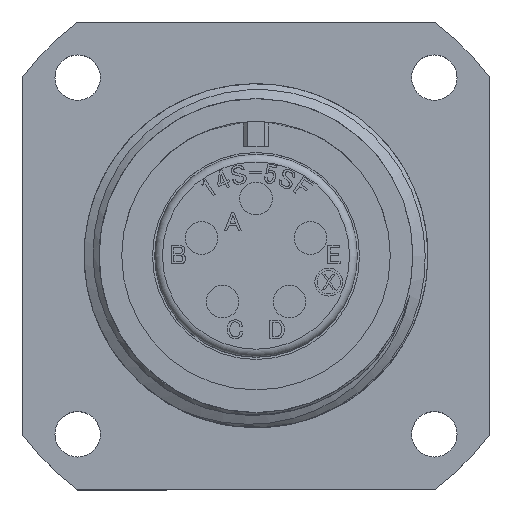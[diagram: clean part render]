
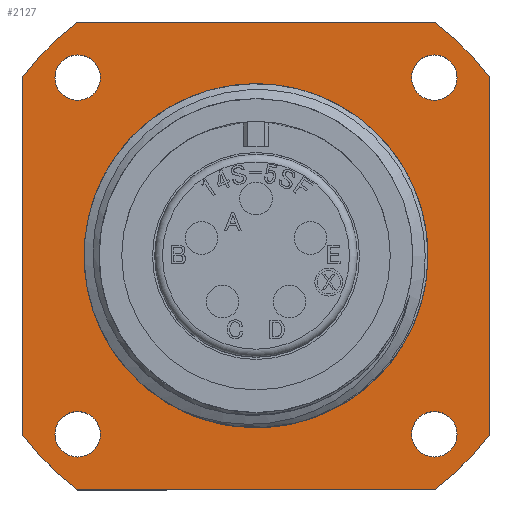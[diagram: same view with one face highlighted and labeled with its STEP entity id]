
A CAD part, top view. The second image highlights one B-rep face of the part: STEP entity #2127.
In plain terms, the highlighted planar face has unit normal (0, 0, 1).
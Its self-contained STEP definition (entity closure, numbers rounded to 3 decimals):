
#408 = ORIENTED_EDGE ( 'NONE', *, *, #3452, .T. ) ;
#482 = CIRCLE ( 'NONE', #13495, 19. ) ;
#515 = ORIENTED_EDGE ( 'NONE', *, *, #27124, .T. ) ;
#1423 = DIRECTION ( 'NONE',  ( 1., 0., 0. ) ) ;
#1540 = VECTOR ( 'NONE', #1423, 1000. ) ;
#1591 = CARTESIAN_POINT ( 'NONE',  ( -10.045, 11.51, -14.48 ) ) ;
#1620 = CIRCLE ( 'NONE', #28133, 1.465 ) ;
#2070 = DIRECTION ( 'NONE',  ( 1., 0., 0. ) ) ;
#2127 = ADVANCED_FACE ( 'NONE', ( #10734, #20579, #20908, #14430, #4986, #15773 ), #16786, .T. ) ;
#2648 = CIRCLE ( 'NONE', #5916, 11.095 ) ;
#2749 = VERTEX_POINT ( 'NONE', #12983 ) ;
#2790 = EDGE_CURVE ( 'NONE', #8583, #8583, #23972, .T. ) ;
#3015 = ORIENTED_EDGE ( 'NONE', *, *, #7177, .T. ) ;
#3023 = ORIENTED_EDGE ( 'NONE', *, *, #4712, .T. ) ;
#3452 = EDGE_CURVE ( 'NONE', #11668, #26403, #15097, .T. ) ;
#3513 = CARTESIAN_POINT ( 'NONE',  ( -12.975, -11.51, -14.48 ) ) ;
#3575 = DIRECTION ( 'NONE',  ( 0., 0., 1. ) ) ;
#3823 = CARTESIAN_POINT ( 'NONE',  ( 0., 0., -14.48 ) ) ;
#3981 = CARTESIAN_POINT ( 'NONE',  ( 11.095, 0., -14.48 ) ) ;
#4712 = EDGE_CURVE ( 'NONE', #23977, #11177, #27121, .T. ) ;
#4986 = FACE_BOUND ( 'NONE', #16061, .T. ) ;
#5487 = EDGE_CURVE ( 'NONE', #9266, #9266, #6489, .T. ) ;
#5737 = DIRECTION ( 'NONE',  ( 1., 0., 0. ) ) ;
#5768 = ORIENTED_EDGE ( 'NONE', *, *, #18329, .T. ) ;
#5916 = AXIS2_PLACEMENT_3D ( 'NONE', #22406, #7067, #18247 ) ;
#6033 = CARTESIAN_POINT ( 'NONE',  ( -11.532, -15.1, -14.48 ) ) ;
#6266 = EDGE_CURVE ( 'NONE', #23462, #23977, #10516, .T. ) ;
#6489 = CIRCLE ( 'NONE', #22254, 1.465 ) ;
#7067 = DIRECTION ( 'NONE',  ( 0., 0., -1. ) ) ;
#7106 = DIRECTION ( 'NONE',  ( 1., 0., 0. ) ) ;
#7177 = EDGE_CURVE ( 'NONE', #11177, #18170, #23967, .T. ) ;
#7428 = CARTESIAN_POINT ( 'NONE',  ( 11.51, -11.51, -14.48 ) ) ;
#7504 = CARTESIAN_POINT ( 'NONE',  ( 10.045, 11.51, -14.48 ) ) ;
#7741 = DIRECTION ( 'NONE',  ( 0., 0., 1. ) ) ;
#7798 = AXIS2_PLACEMENT_3D ( 'NONE', #25982, #26074, #19323 ) ;
#8048 = CARTESIAN_POINT ( 'NONE',  ( -11.51, 11.51, -14.48 ) ) ;
#8088 = DIRECTION ( 'NONE',  ( 0., 0., 1. ) ) ;
#8188 = DIRECTION ( 'NONE',  ( 0., -1., 0. ) ) ;
#8336 = VERTEX_POINT ( 'NONE', #6033 ) ;
#8583 = VERTEX_POINT ( 'NONE', #3513 ) ;
#8630 = EDGE_CURVE ( 'NONE', #18752, #18752, #9117, .T. ) ;
#8937 = CIRCLE ( 'NONE', #7798, 19. ) ;
#9117 = CIRCLE ( 'NONE', #24861, 1.465 ) ;
#9202 = DIRECTION ( 'NONE',  ( 0., 0., 1. ) ) ;
#9266 = VERTEX_POINT ( 'NONE', #7504 ) ;
#9294 = DIRECTION ( 'NONE',  ( -1., 0., 0. ) ) ;
#9365 = AXIS2_PLACEMENT_3D ( 'NONE', #25431, #8088, #16958 ) ;
#9901 = CARTESIAN_POINT ( 'NONE',  ( -15.1, 11.532, -14.48 ) ) ;
#9913 = EDGE_LOOP ( 'NONE', ( #20794 ) ) ;
#10203 = CARTESIAN_POINT ( 'NONE',  ( 11.51, 11.51, -14.48 ) ) ;
#10218 = EDGE_CURVE ( 'NONE', #26403, #23462, #20750, .T. ) ;
#10272 = CARTESIAN_POINT ( 'NONE',  ( 11.532, 15.1, -14.48 ) ) ;
#10292 = DIRECTION ( 'NONE',  ( -1., 0., 0. ) ) ;
#10484 = ORIENTED_EDGE ( 'NONE', *, *, #14252, .T. ) ;
#10516 = LINE ( 'NONE', #11826, #10832 ) ;
#10620 = DIRECTION ( 'NONE',  ( 0., 1., 0. ) ) ;
#10734 = FACE_BOUND ( 'NONE', #25205, .T. ) ;
#10832 = VECTOR ( 'NONE', #9294, 1000. ) ;
#11177 = VERTEX_POINT ( 'NONE', #23336 ) ;
#11668 = VERTEX_POINT ( 'NONE', #13700 ) ;
#11826 = CARTESIAN_POINT ( 'NONE',  ( -11.532, 15.1, -14.48 ) ) ;
#11949 = DIRECTION ( 'NONE',  ( 0., 0., 1. ) ) ;
#12689 = CARTESIAN_POINT ( 'NONE',  ( 15.1, 11.532, -14.48 ) ) ;
#12983 = CARTESIAN_POINT ( 'NONE',  ( 11.532, -15.1, -14.48 ) ) ;
#13407 = LINE ( 'NONE', #27551, #1540 ) ;
#13495 = AXIS2_PLACEMENT_3D ( 'NONE', #28124, #15032, #2070 ) ;
#13700 = CARTESIAN_POINT ( 'NONE',  ( 15.1, -11.532, -14.48 ) ) ;
#13982 = EDGE_LOOP ( 'NONE', ( #25319 ) ) ;
#14252 = EDGE_CURVE ( 'NONE', #26551, #26551, #2648, .T. ) ;
#14388 = AXIS2_PLACEMENT_3D ( 'NONE', #3823, #7741, #5737 ) ;
#14425 = VECTOR ( 'NONE', #8188, 1000. ) ;
#14430 = FACE_BOUND ( 'NONE', #13982, .T. ) ;
#14944 = DIRECTION ( 'NONE',  ( -1., 0., 0. ) ) ;
#14985 = AXIS2_PLACEMENT_3D ( 'NONE', #22173, #9202, #7106 ) ;
#15032 = DIRECTION ( 'NONE',  ( 0., 0., 1. ) ) ;
#15097 = LINE ( 'NONE', #12689, #16482 ) ;
#15773 = FACE_OUTER_BOUND ( 'NONE', #18890, .T. ) ;
#16061 = EDGE_LOOP ( 'NONE', ( #25216 ) ) ;
#16302 = CARTESIAN_POINT ( 'NONE',  ( -15.1, -11.532, -14.48 ) ) ;
#16482 = VECTOR ( 'NONE', #10620, 1000. ) ;
#16625 = DIRECTION ( 'NONE',  ( 1., 0., 0. ) ) ;
#16758 = AXIS2_PLACEMENT_3D ( 'NONE', #19538, #19443, #14944 ) ;
#16786 = PLANE ( 'NONE',  #14388 ) ;
#16833 = ORIENTED_EDGE ( 'NONE', *, *, #17592, .T. ) ;
#16958 = DIRECTION ( 'NONE',  ( 1., 0., 0. ) ) ;
#17592 = EDGE_CURVE ( 'NONE', #8336, #2749, #13407, .T. ) ;
#18170 = VERTEX_POINT ( 'NONE', #16302 ) ;
#18247 = DIRECTION ( 'NONE',  ( 1., 0., 0. ) ) ;
#18329 = EDGE_CURVE ( 'NONE', #18170, #8336, #482, .T. ) ;
#18752 = VERTEX_POINT ( 'NONE', #18765 ) ;
#18765 = CARTESIAN_POINT ( 'NONE',  ( 12.975, -11.51, -14.48 ) ) ;
#18890 = EDGE_LOOP ( 'NONE', ( #3023, #3015, #5768, #16833, #515, #408, #20796, #23834 ) ) ;
#19323 = DIRECTION ( 'NONE',  ( 1., 0., 0. ) ) ;
#19443 = DIRECTION ( 'NONE',  ( 0., 0., 1. ) ) ;
#19538 = CARTESIAN_POINT ( 'NONE',  ( -11.51, -11.51, -14.48 ) ) ;
#20579 = FACE_BOUND ( 'NONE', #9913, .T. ) ;
#20750 = CIRCLE ( 'NONE', #14985, 19. ) ;
#20794 = ORIENTED_EDGE ( 'NONE', *, *, #2790, .F. ) ;
#20796 = ORIENTED_EDGE ( 'NONE', *, *, #10218, .T. ) ;
#20908 = FACE_BOUND ( 'NONE', #26933, .T. ) ;
#22173 = CARTESIAN_POINT ( 'NONE',  ( 0., 0., -14.48 ) ) ;
#22254 = AXIS2_PLACEMENT_3D ( 'NONE', #10203, #23284, #10292 ) ;
#22406 = CARTESIAN_POINT ( 'NONE',  ( 0., 0., -14.48 ) ) ;
#22798 = EDGE_CURVE ( 'NONE', #26224, #26224, #1620, .T. ) ;
#23284 = DIRECTION ( 'NONE',  ( 0., 0., 1. ) ) ;
#23336 = CARTESIAN_POINT ( 'NONE',  ( -15.1, 11.532, -14.48 ) ) ;
#23462 = VERTEX_POINT ( 'NONE', #10272 ) ;
#23834 = ORIENTED_EDGE ( 'NONE', *, *, #6266, .T. ) ;
#23967 = LINE ( 'NONE', #9901, #14425 ) ;
#23972 = CIRCLE ( 'NONE', #16758, 1.465 ) ;
#23977 = VERTEX_POINT ( 'NONE', #27720 ) ;
#24861 = AXIS2_PLACEMENT_3D ( 'NONE', #7428, #11949, #27171 ) ;
#25205 = EDGE_LOOP ( 'NONE', ( #10484 ) ) ;
#25216 = ORIENTED_EDGE ( 'NONE', *, *, #22798, .F. ) ;
#25319 = ORIENTED_EDGE ( 'NONE', *, *, #5487, .F. ) ;
#25431 = CARTESIAN_POINT ( 'NONE',  ( 0., 0., -14.48 ) ) ;
#25633 = ORIENTED_EDGE ( 'NONE', *, *, #8630, .F. ) ;
#25982 = CARTESIAN_POINT ( 'NONE',  ( 0., 0., -14.48 ) ) ;
#26074 = DIRECTION ( 'NONE',  ( 0., 0., 1. ) ) ;
#26224 = VERTEX_POINT ( 'NONE', #1591 ) ;
#26403 = VERTEX_POINT ( 'NONE', #27884 ) ;
#26551 = VERTEX_POINT ( 'NONE', #3981 ) ;
#26933 = EDGE_LOOP ( 'NONE', ( #25633 ) ) ;
#27121 = CIRCLE ( 'NONE', #9365, 19. ) ;
#27124 = EDGE_CURVE ( 'NONE', #2749, #11668, #8937, .T. ) ;
#27171 = DIRECTION ( 'NONE',  ( 1., 0., 0. ) ) ;
#27551 = CARTESIAN_POINT ( 'NONE',  ( -11.532, -15.1, -14.48 ) ) ;
#27720 = CARTESIAN_POINT ( 'NONE',  ( -11.532, 15.1, -14.48 ) ) ;
#27884 = CARTESIAN_POINT ( 'NONE',  ( 15.1, 11.532, -14.48 ) ) ;
#28124 = CARTESIAN_POINT ( 'NONE',  ( 0., 0., -14.48 ) ) ;
#28133 = AXIS2_PLACEMENT_3D ( 'NONE', #8048, #3575, #16625 ) ;
